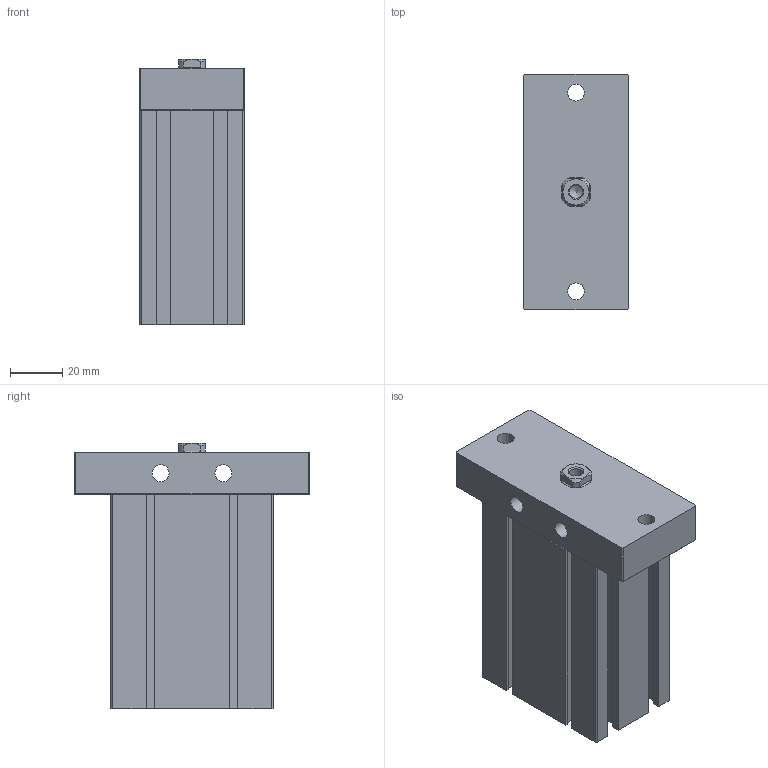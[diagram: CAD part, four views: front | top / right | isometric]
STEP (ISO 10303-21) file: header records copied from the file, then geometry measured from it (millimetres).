
FILE_DESCRIPTION((''),'2;1');
FILE_NAME('J:\3D電子目錄\氣缸\ND\ND\ND32-F\ND32x50-F.stp','2008-03-12T14:57:27',('66-2f-008'),(''),'Autodesk Inventor 11','Autodesk Inventor 11','');
FILE_SCHEMA(('AUTOMOTIVE_DESIGN { 1 0 10303 214 1 1 1 1 }'));
Length unit declared in the file: millimetre
Products named in the file (1): ND32-F
Bounding box: 40 x 90 x 101.5 mm (x, y, z)
Volume: 233509.3 mm3; surface area: 41420.1 mm2
Topology: 2 solids, 2 shells, 145 faces, 371 edges, 239 vertices
Faces by surface type: plane 105, bspline 16, cone 12, cylinder 11, torus 1
Full cylindrical faces by diameter (mm): 2.2 x2, 6.5 x2, 23 x1, 34 x1, 36 x1
Entity records: 4318 total; most frequent: CARTESIAN_POINT 948, ORIENTED_EDGE 674, DIRECTION 650, EDGE_CURVE 337, VECTOR 268, LINE 268, VERTEX_POINT 233, AXIS2_PLACEMENT_3D 191
